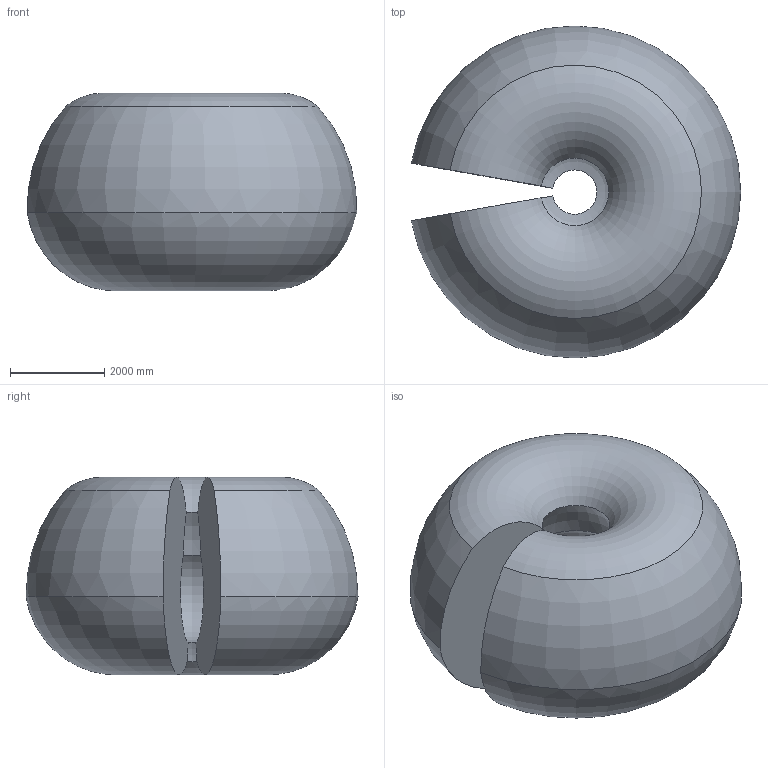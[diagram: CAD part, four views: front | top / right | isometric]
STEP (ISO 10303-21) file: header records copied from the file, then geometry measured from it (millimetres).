
FILE_DESCRIPTION (( 'STEP AP214' ), '1' );
FILE_NAME ('IRB77X0_All-350_OC_00_Working-space.step', '2026-01-28T09:36:53', ( '' ), ( '' ), 'SwSTEP 2.0', 'SolidWorks 2024', '' );
FILE_SCHEMA (( 'AUTOMOTIVE_DESIGN' ));
Length unit declared in the file: millimetre
Products named in the file (1): IRB77X0_All-350_OC_00_Working-space
Bounding box: 6994.37 x 7047.91 x 4196.06 mm (x, y, z)
Volume: 109647268644.4 mm3; surface area: 163448617.3 mm2
Topology: 1 solids, 1 shells, 8 faces, 18 edges, 12 vertices
Faces by surface type: torus 6, plane 2
Entity records: 263 total; most frequent: DIRECTION 54, CARTESIAN_POINT 39, ORIENTED_EDGE 36, AXIS2_PLACEMENT_3D 27, EDGE_CURVE 18, CIRCLE 18, VERTEX_POINT 12, ADVANCED_FACE 8
